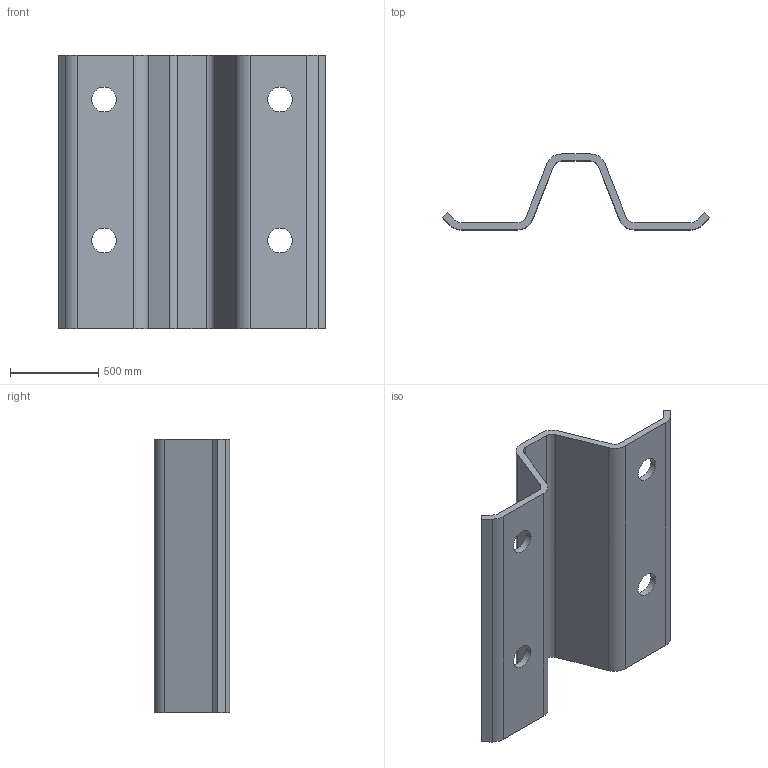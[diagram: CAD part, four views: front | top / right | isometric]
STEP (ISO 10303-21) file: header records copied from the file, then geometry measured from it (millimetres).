
FILE_DESCRIPTION(/* description */ (''),/* implementation_level */ '2;1');
FILE_NAME(/* name */ 'ZC170.stp',/* time_stamp */ '2024-10-31T15:16:53+01:00',/* author */ ('woriedl'),/* organization */ (''),/* preprocessor_version */ 'ST-DEVELOPER v20',/* originating_system */ 'AutoCAD Mechanical',/* authorisation */ '');
FILE_SCHEMA (('AUTOMOTIVE_DESIGN { 1 0 10303 214 3 1 1 }'));
Length unit declared in the file: centimetre
Products named in the file (1): Product
Bounding box: 1517.2 x 430 x 1550 mm (x, y, z)
Volume: 122667992 mm3; surface area: 6489230.6 mm2
Topology: 1 solids, 1 shells, 34 faces, 96 edges, 64 vertices
Faces by surface type: plane 18, cylinder 16
Full cylindrical faces by diameter (mm): 140 x4
Entity records: 1151 total; most frequent: DIRECTION 198, CARTESIAN_POINT 195, ORIENTED_EDGE 192, EDGE_CURVE 96, AXIS2_PLACEMENT_3D 67, LINE 64, VECTOR 64, VERTEX_POINT 64
